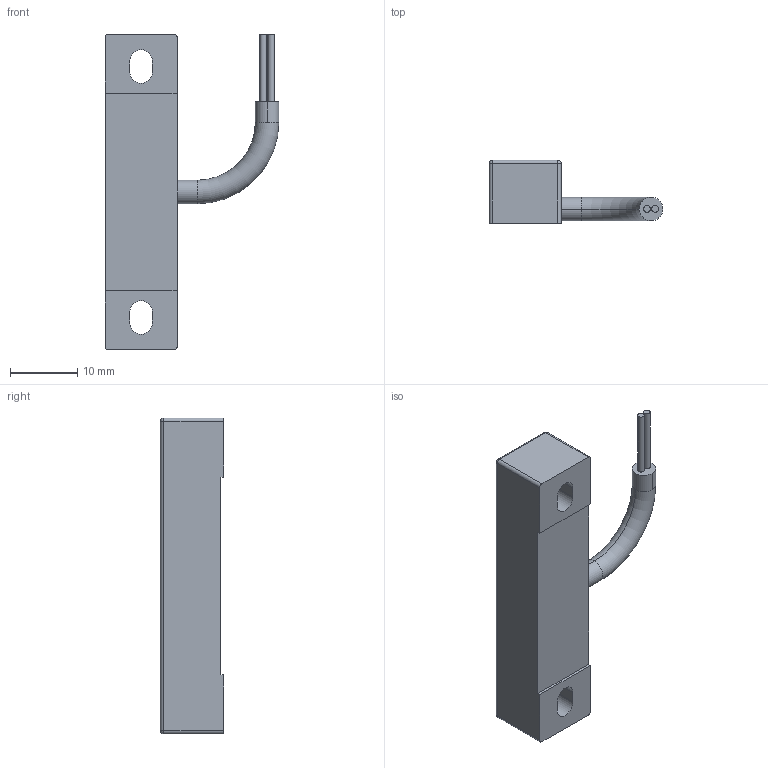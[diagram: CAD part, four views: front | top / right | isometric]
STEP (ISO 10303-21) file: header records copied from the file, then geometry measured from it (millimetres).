
FILE_DESCRIPTION (( 'STEP AP203' ), '1' );
FILE_NAME ('SM2325.STEP', '2019-09-12T17:06:03', ( '' ), ( '' ), 'SwSTEP 2.0', 'SolidWorks 2012', '' );
FILE_SCHEMA (( 'CONFIG_CONTROL_DESIGN' ));
Length unit declared in the file: millimetre
Products named in the file (1): SM2325
Bounding box: 25.85 x 9.4 x 47 mm (x, y, z)
Volume: 4279.6 mm3; surface area: 2650.2 mm2
Topology: 1 solids, 1 shells, 61 faces, 154 edges, 95 vertices
Faces by surface type: cylinder 28, plane 27, sphere 4, torus 2
Entity records: 1890 total; most frequent: DIRECTION 335, CARTESIAN_POINT 307, ORIENTED_EDGE 300, EDGE_CURVE 150, AXIS2_PLACEMENT_3D 123, VERTEX_POINT 95, VECTOR 89, LINE 89
